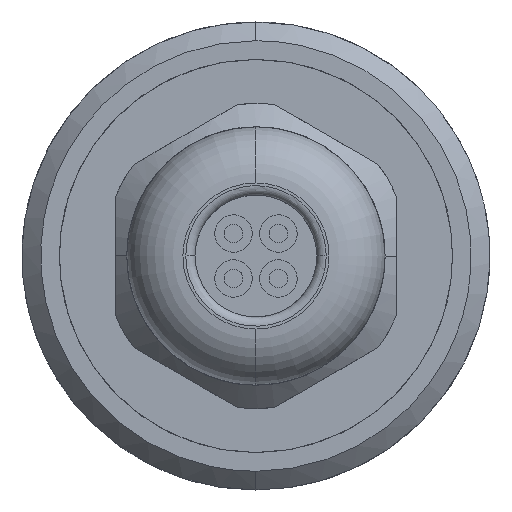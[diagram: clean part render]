
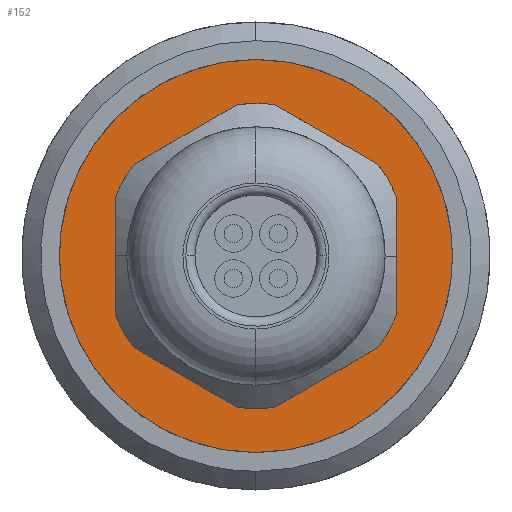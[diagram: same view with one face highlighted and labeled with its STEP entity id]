
A CAD part, front view. The second image highlights one B-rep face of the part: STEP entity #152.
In plain terms, the highlighted planar face has unit normal (0, -1, 0).
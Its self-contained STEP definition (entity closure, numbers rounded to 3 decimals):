
#3 = CARTESIAN_POINT ( 'NONE',  ( 0., 0., -6.25 ) ) ;
#27 = CARTESIAN_POINT ( 'NONE',  ( -7., 0., -10.5 ) ) ;
#28 =( BOUNDED_CURVE ( )  B_SPLINE_CURVE ( 3, ( #4326, #3297, #3877, #2963, #2879, #131, #193 ),
 .UNSPECIFIED., .F., .T. ) 
 B_SPLINE_CURVE_WITH_KNOTS ( ( 4, 3, 4 ),
 ( 0.25, 0.5, 0.75 ),
 .UNSPECIFIED. ) 
 CURVE ( )  GEOMETRIC_REPRESENTATION_ITEM ( )  RATIONAL_B_SPLINE_CURVE ( ( 0.5, 0.5, 0.667, 1., 0.667, 0.5, 0.5 ) ) 
 REPRESENTATION_ITEM ( '' )  );
#131 = CARTESIAN_POINT ( 'NONE',  ( 4.167, 0., 6.25 ) ) ;
#152 = ADVANCED_FACE ( 'NONE', ( #4908, #1199 ), #746, .T. ) ;
#193 = CARTESIAN_POINT ( 'NONE',  ( 0., 0., 6.25 ) ) ;
#213 =( BOUNDED_CURVE ( )  B_SPLINE_CURVE ( 3, ( #4248, #1927, #5056, #996, #533, #27, #3731 ),
 .UNSPECIFIED., .F., .T. ) 
 B_SPLINE_CURVE_WITH_KNOTS ( ( 4, 3, 4 ),
 ( 0.75, 1., 1.25 ),
 .UNSPECIFIED. ) 
 CURVE ( )  GEOMETRIC_REPRESENTATION_ITEM ( )  RATIONAL_B_SPLINE_CURVE ( ( 0.5, 0.5, 0.667, 1., 0.667, 0.5, 0.5 ) ) 
 REPRESENTATION_ITEM ( '' )  );
#256 = DIRECTION ( 'NONE',  ( 0., -1., 0. ) ) ;
#533 = CARTESIAN_POINT ( 'NONE',  ( -10.5, 0., -5.25 ) ) ;
#746 = PLANE ( 'NONE',  #3116 ) ;
#817 = CARTESIAN_POINT ( 'NONE',  ( -4.167, 0., -6.25 ) ) ;
#879 = CARTESIAN_POINT ( 'NONE',  ( 0., 0., 6.25 ) ) ;
#996 = CARTESIAN_POINT ( 'NONE',  ( -10.5, 0., 0. ) ) ;
#1199 = FACE_OUTER_BOUND ( 'NONE', #5787, .T. ) ;
#1273 = CARTESIAN_POINT ( 'NONE',  ( -6.25, 0., -3.125 ) ) ;
#1300 = CARTESIAN_POINT ( 'NONE',  ( -6.25, 0., 0. ) ) ;
#1373 = CARTESIAN_POINT ( 'NONE',  ( 0., 0., 10.5 ) ) ;
#1559 = VERTEX_POINT ( 'NONE', #2778 ) ;
#1652 = DIRECTION ( 'NONE',  ( 0., 0., -1. ) ) ;
#1722 = CARTESIAN_POINT ( 'NONE',  ( -4.167, 0., 6.25 ) ) ;
#1742 = CARTESIAN_POINT ( 'NONE',  ( 7., 0., -10.5 ) ) ;
#1755 = CARTESIAN_POINT ( 'NONE',  ( 0., 0., -6.25 ) ) ;
#1917 = ORIENTED_EDGE ( 'NONE', *, *, #4052, .T. ) ;
#1927 = CARTESIAN_POINT ( 'NONE',  ( -7., 0., 10.5 ) ) ;
#2057 = EDGE_CURVE ( 'NONE', #5035, #1559, #2262, .T. ) ;
#2216 = ORIENTED_EDGE ( 'NONE', *, *, #2747, .F. ) ;
#2262 =( BOUNDED_CURVE ( )  B_SPLINE_CURVE ( 3, ( #5471, #1742, #5833, #4081, #5414, #5921, #1373 ),
 .UNSPECIFIED., .F., .T. ) 
 B_SPLINE_CURVE_WITH_KNOTS ( ( 4, 3, 4 ),
 ( 0.25, 0.5, 0.75 ),
 .UNSPECIFIED. ) 
 CURVE ( )  GEOMETRIC_REPRESENTATION_ITEM ( )  RATIONAL_B_SPLINE_CURVE ( ( 0.5, 0.5, 0.667, 1., 0.667, 0.5, 0.5 ) ) 
 REPRESENTATION_ITEM ( '' )  );
#2747 = EDGE_CURVE ( 'NONE', #4429, #4873, #3956, .T. ) ;
#2778 = CARTESIAN_POINT ( 'NONE',  ( 0., 0., 10.5 ) ) ;
#2879 = CARTESIAN_POINT ( 'NONE',  ( 6.25, 0., 3.125 ) ) ;
#2963 = CARTESIAN_POINT ( 'NONE',  ( 6.25, 0., 0. ) ) ;
#3116 = AXIS2_PLACEMENT_3D ( 'NONE', #4447, #256, #1652 ) ;
#3131 = ORIENTED_EDGE ( 'NONE', *, *, #5742, .F. ) ;
#3166 = EDGE_LOOP ( 'NONE', ( #3131, #2216 ) ) ;
#3297 = CARTESIAN_POINT ( 'NONE',  ( 4.167, 0., -6.25 ) ) ;
#3473 = CARTESIAN_POINT ( 'NONE',  ( 0., 0., 6.25 ) ) ;
#3703 = CARTESIAN_POINT ( 'NONE',  ( 0., 0., -10.5 ) ) ;
#3731 = CARTESIAN_POINT ( 'NONE',  ( 0., 0., -10.5 ) ) ;
#3877 = CARTESIAN_POINT ( 'NONE',  ( 6.25, 0., -3.125 ) ) ;
#3956 =( BOUNDED_CURVE ( )  B_SPLINE_CURVE ( 3, ( #879, #1722, #5815, #1300, #1273, #817, #1755 ),
 .UNSPECIFIED., .F., .T. ) 
 B_SPLINE_CURVE_WITH_KNOTS ( ( 4, 3, 4 ),
 ( 0.75, 1., 1.25 ),
 .UNSPECIFIED. ) 
 CURVE ( )  GEOMETRIC_REPRESENTATION_ITEM ( )  RATIONAL_B_SPLINE_CURVE ( ( 0.5, 0.5, 0.667, 1., 0.667, 0.5, 0.5 ) ) 
 REPRESENTATION_ITEM ( '' )  );
#4052 = EDGE_CURVE ( 'NONE', #1559, #5035, #213, .T. ) ;
#4081 = CARTESIAN_POINT ( 'NONE',  ( 10.5, 0., 0. ) ) ;
#4248 = CARTESIAN_POINT ( 'NONE',  ( 0., 0., 10.5 ) ) ;
#4326 = CARTESIAN_POINT ( 'NONE',  ( 0., 0., -6.25 ) ) ;
#4429 = VERTEX_POINT ( 'NONE', #3473 ) ;
#4447 = CARTESIAN_POINT ( 'NONE',  ( 0., 0., 0. ) ) ;
#4873 = VERTEX_POINT ( 'NONE', #3 ) ;
#4908 = FACE_BOUND ( 'NONE', #3166, .T. ) ;
#4983 = ORIENTED_EDGE ( 'NONE', *, *, #2057, .T. ) ;
#5035 = VERTEX_POINT ( 'NONE', #3703 ) ;
#5056 = CARTESIAN_POINT ( 'NONE',  ( -10.5, 0., 5.25 ) ) ;
#5414 = CARTESIAN_POINT ( 'NONE',  ( 10.5, 0., 5.25 ) ) ;
#5471 = CARTESIAN_POINT ( 'NONE',  ( 0., 0., -10.5 ) ) ;
#5742 = EDGE_CURVE ( 'NONE', #4873, #4429, #28, .T. ) ;
#5787 = EDGE_LOOP ( 'NONE', ( #4983, #1917 ) ) ;
#5815 = CARTESIAN_POINT ( 'NONE',  ( -6.25, 0., 3.125 ) ) ;
#5833 = CARTESIAN_POINT ( 'NONE',  ( 10.5, 0., -5.25 ) ) ;
#5921 = CARTESIAN_POINT ( 'NONE',  ( 7., 0., 10.5 ) ) ;
